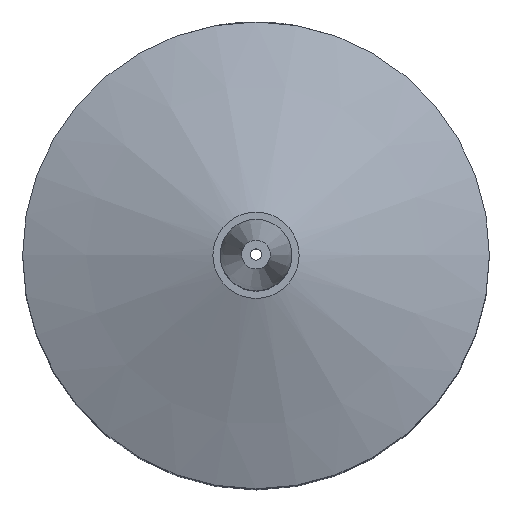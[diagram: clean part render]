
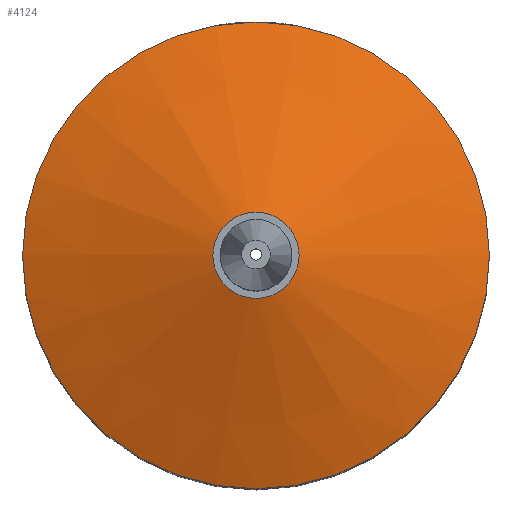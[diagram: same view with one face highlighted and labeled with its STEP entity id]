
A CAD part, top view. The second image highlights one B-rep face of the part: STEP entity #4124.
In plain terms, the highlighted conical face has half-angle 70.316 degrees and reference radius 20.637 mm.
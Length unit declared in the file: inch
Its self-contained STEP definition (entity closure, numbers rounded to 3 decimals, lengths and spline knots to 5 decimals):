
#4090=CARTESIAN_POINT('',(-0.15,0.0,1.037));
#4091=VERTEX_POINT('',#4090);
#4092=CARTESIAN_POINT('',(0.0,0.0,1.037));
#4093=DIRECTION('',(0.0,0.0,-1.0));
#4094=DIRECTION('',(-1.0,0.0,0.0));
#4095=AXIS2_PLACEMENT_3D('',#4092,#4093,#4094);
#4096=CIRCLE('',#4095,0.15);
#4097=EDGE_CURVE('',#4091,#4091,#4096,.T.);
#4105=CARTESIAN_POINT('',(0.0,0.0,0.8));
#4106=DIRECTION('',(0.0,0.0,-1.0));
#4107=DIRECTION('',(-1.0,0.0,0.0));
#4108=AXIS2_PLACEMENT_3D('',#4105,#4106,#4107);
#4109=CONICAL_SURFACE('',#4108,0.8125,70.316);
#4110=CARTESIAN_POINT('',(-0.8125,0.0,0.8));
#4111=VERTEX_POINT('',#4110);
#4112=CARTESIAN_POINT('',(0.0,0.0,0.8));
#4113=DIRECTION('',(0.0,0.0,-1.0));
#4114=DIRECTION('',(-1.0,0.0,0.0));
#4115=AXIS2_PLACEMENT_3D('',#4112,#4113,#4114);
#4116=CIRCLE('',#4115,0.8125);
#4117=EDGE_CURVE('',#4111,#4111,#4116,.T.);
#4118=ORIENTED_EDGE('',*,*,#4117,.F.);
#4119=EDGE_LOOP('',(#4118));
#4120=FACE_OUTER_BOUND('',#4119,.T.);
#4121=ORIENTED_EDGE('',*,*,#4097,.T.);
#4122=EDGE_LOOP('',(#4121));
#4123=FACE_BOUND('',#4122,.T.);
#4124=ADVANCED_FACE('',(#4120,#4123),#4109,.T.);
